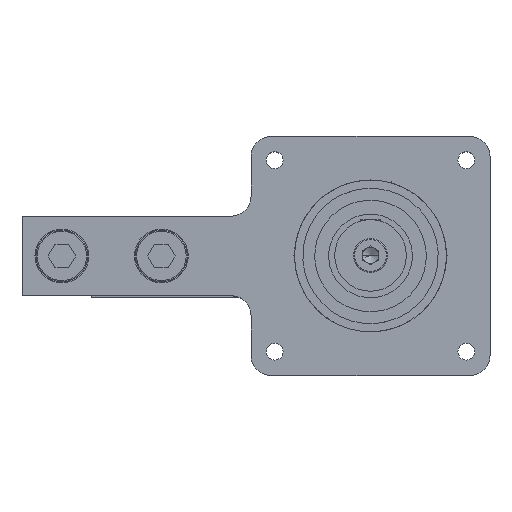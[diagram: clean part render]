
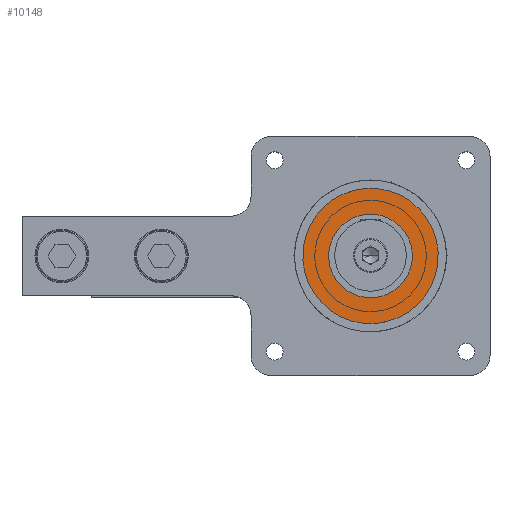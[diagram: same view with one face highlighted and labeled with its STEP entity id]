
A CAD part, top view. The second image highlights one B-rep face of the part: STEP entity #10148.
In plain terms, the highlighted planar face has unit normal (0, 0, 1).
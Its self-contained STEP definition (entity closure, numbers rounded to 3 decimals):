
#491 = EDGE_CURVE ( 'NONE', #9260, #11179, #9881, .T. ) ;
#554 = DIRECTION ( 'NONE',  ( -1., 0., 0. ) ) ;
#939 = DIRECTION ( 'NONE',  ( 1., 0., 0. ) ) ;
#1730 = CIRCLE ( 'NONE', #4356, 10.5 ) ;
#2092 = FACE_BOUND ( 'NONE', #10811, .T. ) ;
#2188 = ORIENTED_EDGE ( 'NONE', *, *, #5387, .F. ) ;
#2390 = EDGE_CURVE ( 'NONE', #8884, #7794, #1730, .T. ) ;
#2838 = AXIS2_PLACEMENT_3D ( 'NONE', #3890, #7241, #554 ) ;
#3324 = CARTESIAN_POINT ( 'NONE',  ( -17., 0., 5.5 ) ) ;
#3507 = CARTESIAN_POINT ( 'NONE',  ( 0., 0., 5.5 ) ) ;
#3890 = CARTESIAN_POINT ( 'NONE',  ( -17., 0., 5.5 ) ) ;
#4181 = AXIS2_PLACEMENT_3D ( 'NONE', #5588, #4450, #939 ) ;
#4356 = AXIS2_PLACEMENT_3D ( 'NONE', #12776, #9451, #14007 ) ;
#4434 = ORIENTED_EDGE ( 'NONE', *, *, #491, .T. ) ;
#4450 = DIRECTION ( 'NONE',  ( 0., 0., 1. ) ) ;
#5061 = PLANE ( 'NONE',  #2838 ) ;
#5387 = EDGE_CURVE ( 'NONE', #7794, #8884, #7185, .T. ) ;
#5588 = CARTESIAN_POINT ( 'NONE',  ( 0., 0., 5.5 ) ) ;
#7114 = ORIENTED_EDGE ( 'NONE', *, *, #2390, .F. ) ;
#7162 = FACE_OUTER_BOUND ( 'NONE', #10806, .T. ) ;
#7185 = CIRCLE ( 'NONE', #8973, 10.5 ) ;
#7241 = DIRECTION ( 'NONE',  ( 0., 0., -1. ) ) ;
#7794 = VERTEX_POINT ( 'NONE', #8760 ) ;
#8108 = DIRECTION ( 'NONE',  ( 1., 0., 0. ) ) ;
#8468 = DIRECTION ( 'NONE',  ( 0., 0., 1. ) ) ;
#8760 = CARTESIAN_POINT ( 'NONE',  ( 10.5, 0., 5.5 ) ) ;
#8805 = CARTESIAN_POINT ( 'NONE',  ( -10.5, 0., 5.5 ) ) ;
#8884 = VERTEX_POINT ( 'NONE', #8805 ) ;
#8973 = AXIS2_PLACEMENT_3D ( 'NONE', #3507, #11312, #8108 ) ;
#9260 = VERTEX_POINT ( 'NONE', #12792 ) ;
#9451 = DIRECTION ( 'NONE',  ( 0., 0., 1. ) ) ;
#9615 = DIRECTION ( 'NONE',  ( 1., 0., 0. ) ) ;
#9881 = CIRCLE ( 'NONE', #4181, 17. ) ;
#10148 = ADVANCED_FACE ( 'NONE', ( #2092, #7162 ), #5061, .F. ) ;
#10309 = ORIENTED_EDGE ( 'NONE', *, *, #12641, .T. ) ;
#10348 = AXIS2_PLACEMENT_3D ( 'NONE', #13023, #8468, #9615 ) ;
#10806 = EDGE_LOOP ( 'NONE', ( #4434, #10309 ) ) ;
#10811 = EDGE_LOOP ( 'NONE', ( #2188, #7114 ) ) ;
#11179 = VERTEX_POINT ( 'NONE', #3324 ) ;
#11312 = DIRECTION ( 'NONE',  ( 0., 0., 1. ) ) ;
#11979 = CIRCLE ( 'NONE', #10348, 17. ) ;
#12641 = EDGE_CURVE ( 'NONE', #11179, #9260, #11979, .T. ) ;
#12776 = CARTESIAN_POINT ( 'NONE',  ( 0., 0., 5.5 ) ) ;
#12792 = CARTESIAN_POINT ( 'NONE',  ( 17., 0., 5.5 ) ) ;
#13023 = CARTESIAN_POINT ( 'NONE',  ( 0., 0., 5.5 ) ) ;
#14007 = DIRECTION ( 'NONE',  ( 1., 0., 0. ) ) ;
